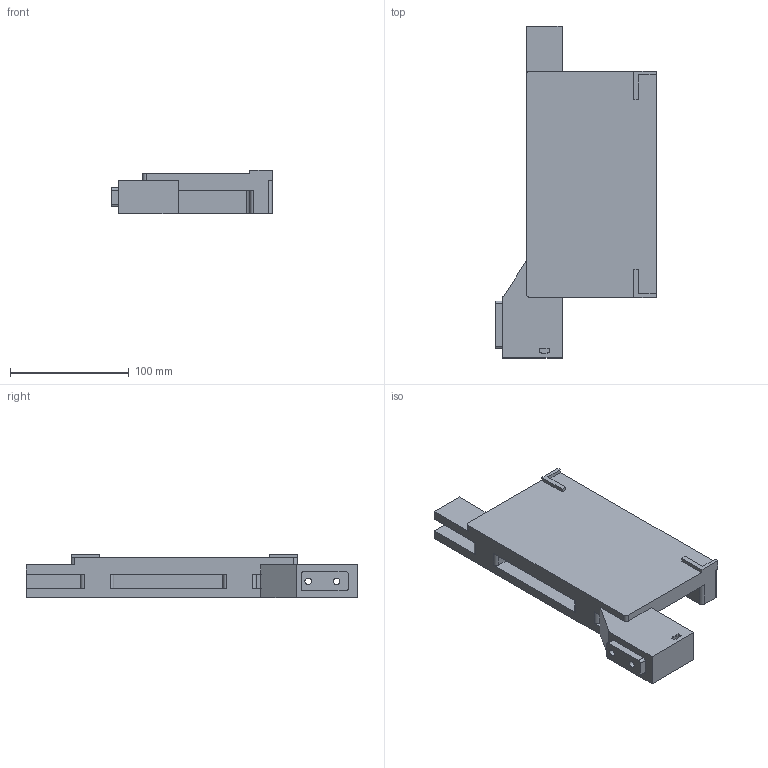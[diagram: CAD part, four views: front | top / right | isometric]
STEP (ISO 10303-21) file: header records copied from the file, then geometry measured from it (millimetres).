
FILE_DESCRIPTION(('Open CASCADE Model'),'2;1');
FILE_NAME('Open CASCADE Shape Model','2026-10-04T00:42:53',('Author'),( 'Open CASCADE'),'Open CASCADE STEP processor 7.8','Open CASCADE 7.8' ,'Unknown');
FILE_SCHEMA(('AUTOMOTIVE_DESIGN { 1 0 10303 214 1 1 1 1 }'));
Length unit declared in the file: millimetre
Products named in the file (1): Open CASCADE STEP translator 7.8 15
Bounding box: 135.5 x 280 x 37 mm (x, y, z)
Volume: 611443.7 mm3; surface area: 96885.1 mm2
Topology: 1 solids, 1 shells, 110 faces, 302 edges, 198 vertices
Faces by surface type: plane 87, cylinder 23
Full cylindrical faces by diameter (mm): 5.6 x2, 9.2 x1
Entity records: 7530 total; most frequent: CARTESIAN_POINT 1467, DIRECTION 1140, LINE 798, VECTOR 798, ORIENTED_EDGE 604, PCURVE 604, DEFINITIONAL_REPRESENTATION 604, EDGE_CURVE 302
